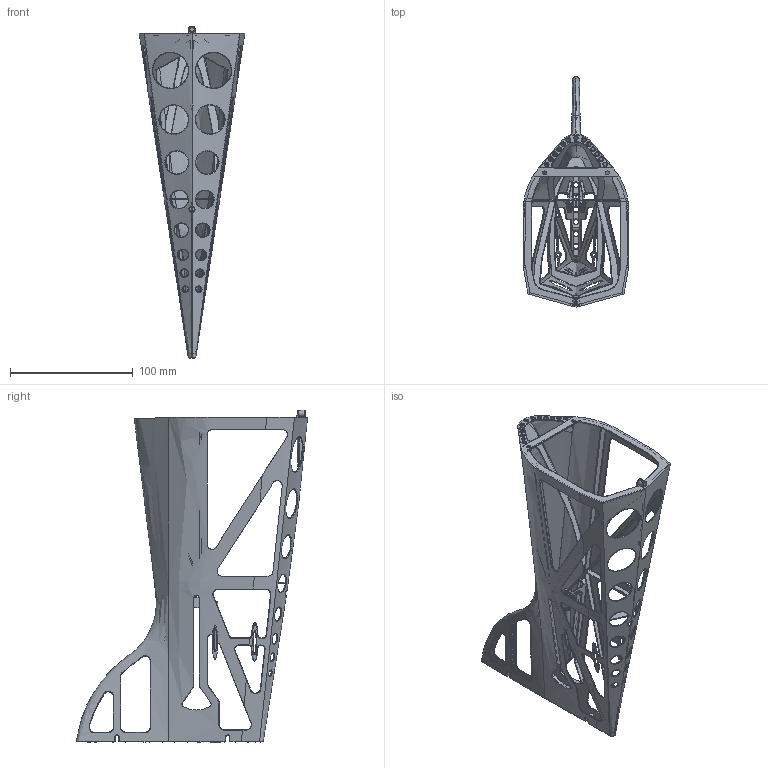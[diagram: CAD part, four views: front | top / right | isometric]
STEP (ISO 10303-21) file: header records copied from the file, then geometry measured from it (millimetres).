
FILE_DESCRIPTION (( 'STEP AP203' ), '1' );
FILE_NAME ('06-12-11-001.STEP', '2019-02-25T08:56:04', ( '' ), ( '' ), 'SwSTEP 2.0', 'SolidWorks 2014', '' );
FILE_SCHEMA (( 'CONFIG_CONTROL_DESIGN' ));
Products named in the file (1): 06-12-11-001
Bounding box: 86 x 187.95 x 270.06 mm (x, y, z)
Volume: 53053.3 mm3; surface area: 132189.5 mm2
Topology: 1 solids, 1 shells, 1949 faces, 5077 edges, 3014 vertices
Faces by surface type: bspline 1326, cylinder 411, plane 205, cone 7
Entity records: 166815 total; most frequent: CARTESIAN_POINT 129167, ORIENTED_EDGE 10064, EDGE_CURVE 5032, DIRECTION 4998, VERTEX_POINT 3014, B_SPLINE_CURVE_WITH_KNOTS 2454, AXIS2_PLACEMENT_3D 2078, EDGE_LOOP 2068
